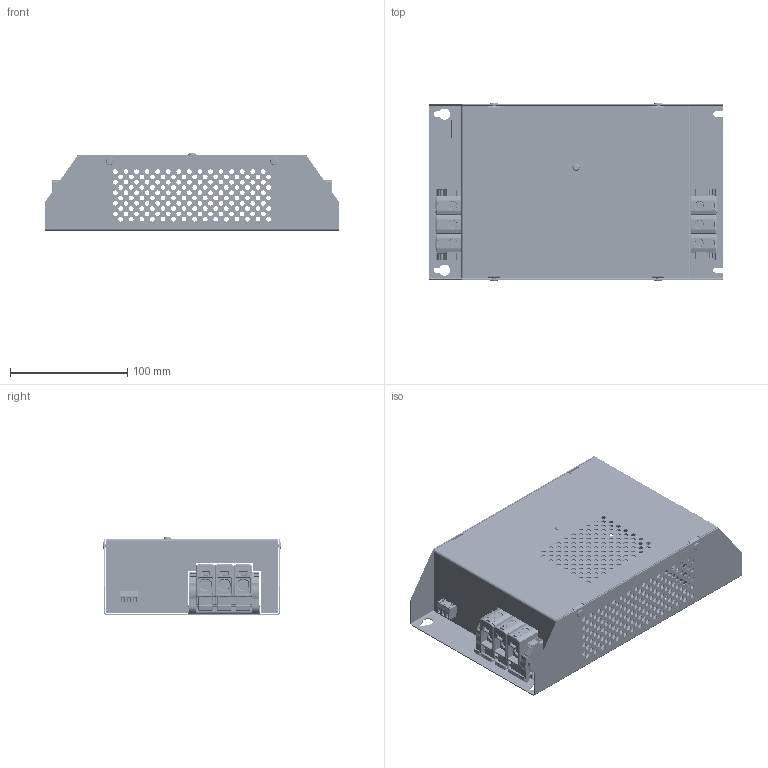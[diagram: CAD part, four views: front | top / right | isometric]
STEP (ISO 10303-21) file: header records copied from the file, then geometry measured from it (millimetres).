
FILE_DESCRIPTION(/* description */ (''),/* implementation_level */ '2;1');
FILE_NAME(/* name */ 'K:\PROJEKTY ROZPRACOVANÉ\MODELY DO KATALOGU\HSAF\3D - STEP\HSAF32 S.stp',/* time_stamp */ '2017-09-27T08:44:52+02:00',/* author */ ('admin'),/* organization */ (''),/* preprocessor_version */ 'ST-DEVELOPER v16.1',/* originating_system */ 'Autodesk Inventor 2016',/* authorisation */ '');
FILE_SCHEMA (('AUTOMOTIVE_DESIGN { 1 0 10303 214 3 1 1 }'));
Products named in the file (14): ZÁKLADNA; VÍKO 1F 32, 50, 63; DIN LIŠTA 61; OTL1x35_BLUE; OTL1x35_YELLOW-GREEN; OTL1x35_GREY; 249-116_HI; 15EDGK - 5.08 3P; ŠROUB M1.6x2.5 5.08, 3.81; 15EDGK - 5.08 3P_1; 15EDGRC - 5.08 3P; KRYTKA NA LED; DIN 7337 - A3 x 6 x 2,5; HSAF32 S, 50 S, 63 S
Assembly tree (25 placements, depth 3):
  HSAF32 S, 50 S, 63 S
    ZÁKLADNA
    VÍKO 1F 32, 50, 63
    DIN LIŠTA 61  x2
    OTL1x35_BLUE  x2
    OTL1x35_YELLOW-GREEN  x2
    OTL1x35_GREY  x2
    249-116_HI  x4
    15EDGK - 5.08 3P_1
      15EDGK - 5.08 3P
      ŠROUB M1.6x2.5 5.08, 3.81  x3
    15EDGRC - 5.08 3P
    KRYTKA NA LED
    DIN 7337 - A3 x 6 x 2,5  x4
Bounding box: 250 x 151.6 x 66.3 mm (x, y, z)
Volume: 255916.2 mm3; surface area: 293608.6 mm2
Topology: 24 solids, 28 shells, 9624 faces, 25865 edges, 16267 vertices
Faces by surface type: plane 6565, cylinder 2070, bspline 568, cone 192, sphere 180, torus 49
Full cylindrical faces by diameter (mm): 0.8 x3, 0.9 x3, 1 x3, 1.171 x3, 1.6 x3, 1.8 x3, 1.9 x3, 2 x3, 2.5 x3, 3 x4, 3.2 x8, 4 x430, 4.2 x4, 4.22 x5, 5 x1, 6.5 x4
Entity records: 171298 total; most frequent: CARTESIAN_POINT 37784, ORIENTED_EDGE 26566, DIRECTION 25697, EDGE_CURVE 13283, LINE 9557, VECTOR 9557, VERTEX_POINT 8762, AXIS2_PLACEMENT_3D 8070
